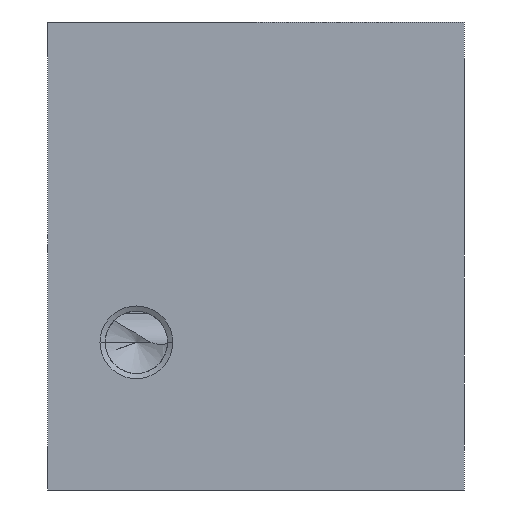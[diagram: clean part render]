
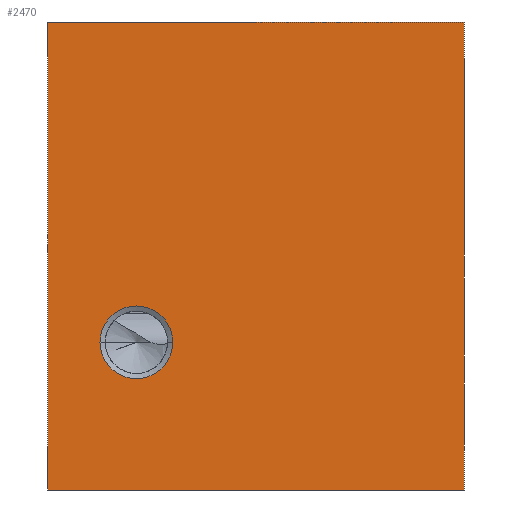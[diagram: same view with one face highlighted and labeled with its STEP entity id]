
A CAD part, left-side view. The second image highlights one B-rep face of the part: STEP entity #2470.
In plain terms, the highlighted planar face has unit normal (-1, 0, 0).
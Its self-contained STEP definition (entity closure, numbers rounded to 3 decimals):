
#25=DIRECTION('',(0.,-1.,0.));
#26=VECTOR('',#25,40.);
#27=CARTESIAN_POINT('',(-80.,40.,0.));
#28=LINE('',#27,#26);
#86=DIRECTION('',(0.,0.,1.));
#87=VECTOR('',#86,45.);
#88=CARTESIAN_POINT('',(-80.,40.,0.));
#89=LINE('',#88,#87);
#93=CARTESIAN_POINT('',(-80.,31.5,14.2));
#94=DIRECTION('',(-1.,0.,0.));
#95=DIRECTION('',(0.,1.,0.));
#96=AXIS2_PLACEMENT_3D('',#93,#94,#95);
#101=CARTESIAN_POINT('',(-80.,31.5,14.2));
#102=DIRECTION('',(-1.,0.,0.));
#103=DIRECTION('',(0.,-1.,0.));
#104=AXIS2_PLACEMENT_3D('',#101,#102,#103);
#283=DIRECTION('',(0.,0.,1.));
#284=VECTOR('',#283,45.);
#285=CARTESIAN_POINT('',(-80.,0.,0.));
#286=LINE('',#285,#284);
#434=DIRECTION('',(0.,-1.,0.));
#435=VECTOR('',#434,40.);
#436=CARTESIAN_POINT('',(-80.,40.,45.));
#437=LINE('',#436,#435);
#2155=CARTESIAN_POINT('',(-80.,40.,0.));
#2156=CARTESIAN_POINT('',(-80.,0.,0.));
#2157=VERTEX_POINT('',#2155);
#2158=VERTEX_POINT('',#2156);
#2163=CARTESIAN_POINT('',(-80.,40.,45.));
#2164=CARTESIAN_POINT('',(-80.,0.,45.));
#2165=VERTEX_POINT('',#2163);
#2166=VERTEX_POINT('',#2164);
#2285=CARTESIAN_POINT('',(-80.,35.,14.2));
#2286=VERTEX_POINT('',#2285);
#2289=CARTESIAN_POINT('',(-80.,28.,14.2));
#2290=VERTEX_POINT('',#2289);
#2450=CARTESIAN_POINT('',(-80.,40.,0.));
#2451=DIRECTION('',(-1.,0.,0.));
#2452=DIRECTION('',(0.,-1.,0.));
#2453=AXIS2_PLACEMENT_3D('',#2450,#2451,#2452);
#2454=PLANE('',#2453);
#2455=ORIENTED_EDGE('',*,*,#2415,.F.);
#2457=ORIENTED_EDGE('',*,*,#2456,.T.);
#2459=ORIENTED_EDGE('',*,*,#2458,.T.);
#2461=ORIENTED_EDGE('',*,*,#2460,.F.);
#2462=EDGE_LOOP('',(#2455,#2457,#2459,#2461));
#2463=FACE_OUTER_BOUND('',#2462,.F.);
#2465=ORIENTED_EDGE('',*,*,#2464,.T.);
#2467=ORIENTED_EDGE('',*,*,#2466,.T.);
#2468=EDGE_LOOP('',(#2465,#2467));
#2469=FACE_BOUND('',#2468,.F.);
#97=CIRCLE('',#96,3.5);
#105=CIRCLE('',#104,3.5);
#2415=EDGE_CURVE('',#2157,#2158,#28,.T.);
#2456=EDGE_CURVE('',#2157,#2165,#89,.T.);
#2458=EDGE_CURVE('',#2165,#2166,#437,.T.);
#2460=EDGE_CURVE('',#2158,#2166,#286,.T.);
#2464=EDGE_CURVE('',#2286,#2290,#97,.T.);
#2466=EDGE_CURVE('',#2290,#2286,#105,.T.);
#2470=ADVANCED_FACE('',(#2463,#2469),#2454,.T.);
